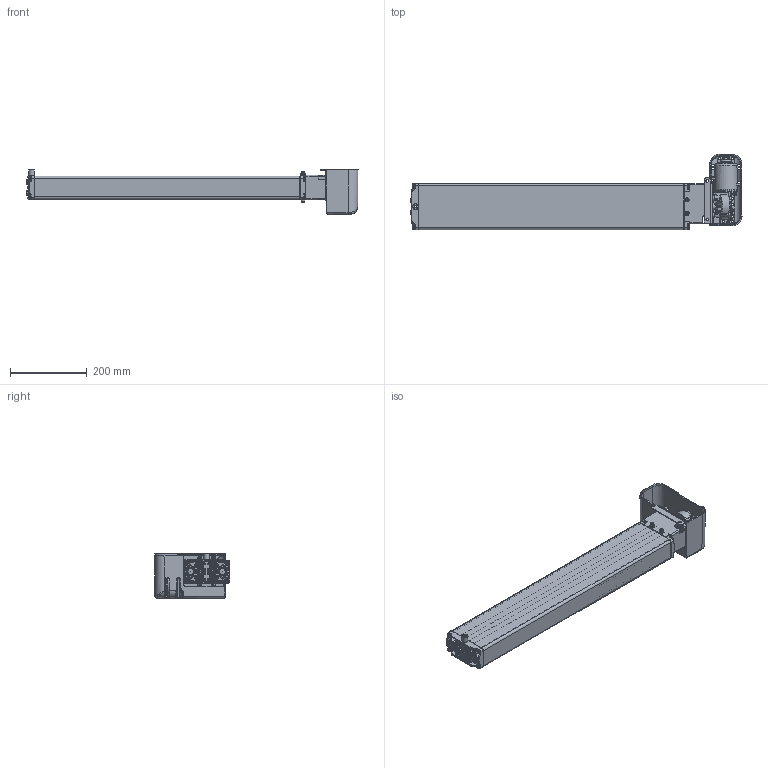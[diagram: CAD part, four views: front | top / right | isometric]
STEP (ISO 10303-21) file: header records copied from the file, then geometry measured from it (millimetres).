
FILE_DESCRIPTION(/* description */ ('Unknown'),/* implementation_level */ '2;1');
FILE_NAME(/* name */ '3X2.20025 Pumpe PB 3850 W mit Antrieb',/* time_stamp */ '2016-10-21T13:48:00+02:00',/* author */ ('Unknown'),/* organization */ ('Unknown'),/* preprocessor_version */ 'ST-DEVELOPER v16.7',/* originating_system */ 'DEX',/* authorisation */ $);
FILE_SCHEMA (('AUTOMOTIVE_DESIGN {1 0 10303 214 3 1 1}'));
Products named in the file (32): 102.20025; 115.00035; 125.00045; 115.00008; 142.00021; 125.00021; 142.00013; 125.00145; 115.00140; 126.00006; 122.00040; 119.00045; 126.00005; 127.00201; 127.00200; 127.00023; 124.00090; Getriebe; Ring; Schraube; Stator; Abdeckplatte; Antriebswelle; 128.00051; 123.00031; 142.00018; 142.00019; 142.00025; 142.00131; 123.00029; 142.00057; 142.00110
Assembly tree (47 placements, depth 3):
  102.20025
    115.00035  x3
      125.00045
      115.00008
      142.00021
      125.00021
    142.00013  x8
    125.00045
    125.00145
    115.00140
      126.00006
      122.00040
    119.00045
    126.00005
    127.00201
      127.00200
      127.00023
    124.00090
      Getriebe
      Ring
      Schraube
      Stator
      Abdeckplatte
      Antriebswelle
    128.00051
    123.00031
    142.00018  x2
    142.00019  x2
    142.00025  x2
    142.00131  x3
    123.00029
    142.00057
    142.00110  x2
Bounding box: 865.42 x 196.04 x 115.45 mm (x, y, z)
Volume: 1362764.1 mm3; surface area: 899568.3 mm2
Topology: 46 solids, 48 shells, 4756 faces, 12057 edges, 7303 vertices
Faces by surface type: bspline 1367, plane 1288, cylinder 1258, cone 479, torus 265, sphere 99
Full cylindrical faces by diameter (mm): 2.5 x4, 3.2 x4, 3.5 x4, 3.9 x5, 4.1 x3, 4.2 x6, 4.4 x5, 4.5 x1, 4.917 x2, 5 x8, 5.5 x5, 6 x6, 6.4 x2, 6.8 x5, 6.917 x8, 7 x1, 8 x8, 8.5 x6, 9 x2, 9.5 x1, 9.8 x8, 10 x8, 10.3 x1, 10.32 x1, 10.4 x1, 11 x5, 14 x2, 14.4 x4, 15 x1, 15.8 x2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
Entity records: 202744 total; most frequent: CARTESIAN_POINT 105890, ORIENTED_EDGE 19228, DIRECTION 14239, EDGE_CURVE 9614, VERTEX_POINT 6195, AXIS2_PLACEMENT_3D 5608, FACE_BOUND 4601, EDGE_LOOP 4596
